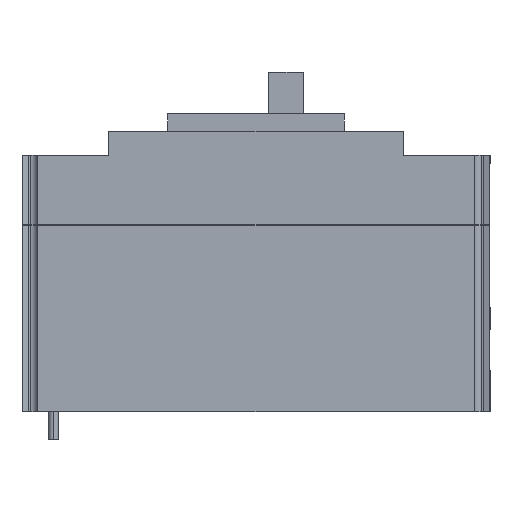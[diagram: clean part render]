
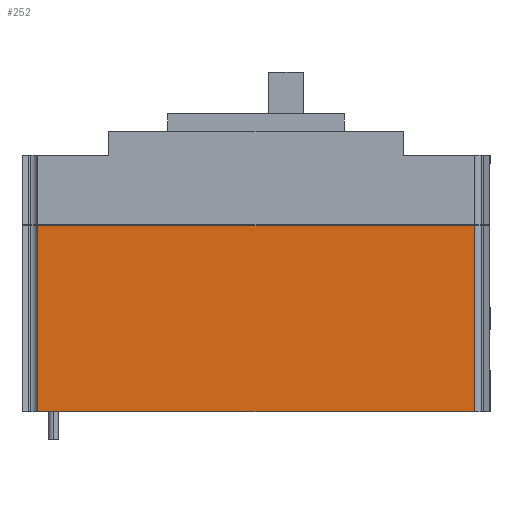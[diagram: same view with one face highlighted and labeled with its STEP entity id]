
A CAD part, left-side view. The second image highlights one B-rep face of the part: STEP entity #252.
In plain terms, the highlighted planar face has unit normal (-1, 0, 0).
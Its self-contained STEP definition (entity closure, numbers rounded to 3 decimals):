
#252 = ADVANCED_FACE ( 'NONE', ( #6650 ), #6647, .F. ) ;
#491 = EDGE_CURVE ( 'NONE', #10996, #9289, #5599, .T. ) ;
#493 = EDGE_CURVE ( 'NONE', #11043, #10996, #5603, .T. ) ;
#593 = EDGE_CURVE ( 'NONE', #9289, #9274, #5292, .T. ) ;
#707 = EDGE_CURVE ( 'NONE', #11043, #9274, #1951, .T. ) ;
#1935 = DIRECTION ( 'NONE',  ( 0., 0., -1. ) ) ;
#1940 = CARTESIAN_POINT ( 'NONE',  ( -38., -63., 27. ) ) ;
#1951 = LINE ( 'NONE', #1940, #4498 ) ;
#2189 = CARTESIAN_POINT ( 'NONE',  ( -38., -63., 0. ) ) ;
#2198 = CARTESIAN_POINT ( 'NONE',  ( -38., 63., 0. ) ) ;
#2231 = CARTESIAN_POINT ( 'NONE',  ( -38., 63., 53.9 ) ) ;
#2390 = CARTESIAN_POINT ( 'NONE',  ( -38., -63., 53.9 ) ) ;
#4145 = AXIS2_PLACEMENT_3D ( 'NONE', #6662, #6644, #6643 ) ;
#4498 = VECTOR ( 'NONE', #1935, 1000. ) ;
#4703 = VECTOR ( 'NONE', #5290, 1000. ) ;
#4919 = VECTOR ( 'NONE', #5596, 1000. ) ;
#4921 = VECTOR ( 'NONE', #5591, 1000. ) ;
#5290 = DIRECTION ( 'NONE',  ( 0., -1., 0. ) ) ;
#5291 = CARTESIAN_POINT ( 'NONE',  ( -38., -120.643, 0. ) ) ;
#5292 = LINE ( 'NONE', #5291, #4703 ) ;
#5591 = DIRECTION ( 'NONE',  ( 0., 1., 0. ) ) ;
#5592 = CARTESIAN_POINT ( 'NONE',  ( -38., 67.5, 53.9 ) ) ;
#5596 = DIRECTION ( 'NONE',  ( 0., 0., -1. ) ) ;
#5597 = CARTESIAN_POINT ( 'NONE',  ( -38., 63., 27. ) ) ;
#5599 = LINE ( 'NONE', #5597, #4919 ) ;
#5603 = LINE ( 'NONE', #5592, #4921 ) ;
#6643 = DIRECTION ( 'NONE',  ( 0., 1., 0. ) ) ;
#6644 = DIRECTION ( 'NONE',  ( 1., 0., 0. ) ) ;
#6647 = PLANE ( 'NONE',  #4145 ) ;
#6650 = FACE_OUTER_BOUND ( 'NONE', #9060, .T. ) ;
#6662 = CARTESIAN_POINT ( 'NONE',  ( -38., -120.643, 27. ) ) ;
#9060 = EDGE_LOOP ( 'NONE', ( #12148, #12147, #12126, #12124 ) ) ;
#9274 = VERTEX_POINT ( 'NONE', #2189 ) ;
#9289 = VERTEX_POINT ( 'NONE', #2198 ) ;
#10996 = VERTEX_POINT ( 'NONE', #2231 ) ;
#11043 = VERTEX_POINT ( 'NONE', #2390 ) ;
#12124 = ORIENTED_EDGE ( 'NONE', *, *, #593, .T. ) ;
#12126 = ORIENTED_EDGE ( 'NONE', *, *, #491, .T. ) ;
#12147 = ORIENTED_EDGE ( 'NONE', *, *, #493, .T. ) ;
#12148 = ORIENTED_EDGE ( 'NONE', *, *, #707, .F. ) ;
